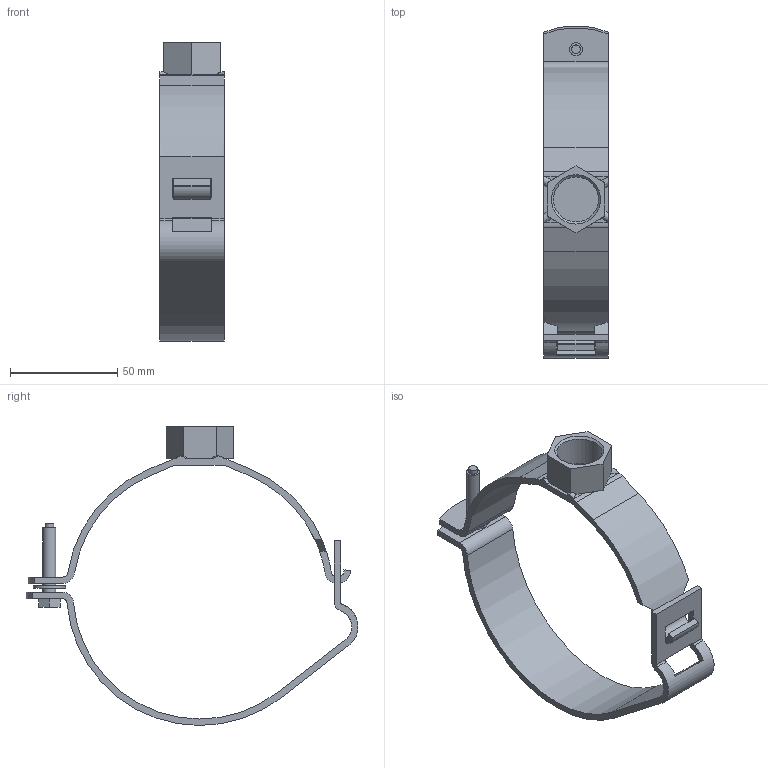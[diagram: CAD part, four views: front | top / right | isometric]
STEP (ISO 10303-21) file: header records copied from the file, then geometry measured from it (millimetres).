
FILE_DESCRIPTION(/* description */ (''),/* implementation_level */ '2;1');
FILE_NAME(/* name */ 'H:\Geberit-Teile\Export\367.841.00.2\stp\367841.stp',/* time_stamp */ '2016-03-14T12:19:00+01:00',/* author */ ('seihe2'),/* organization */ (''),/* preprocessor_version */ 'ST-DEVELOPER v15.2',/* originating_system */ 'Autodesk Inventor 2014',/* authorisation */ '');
FILE_SCHEMA (('AUTOMOTIVE_DESIGN { 1 0 10303 214 3 1 1 }'));
Length unit declared in the file: millimetre
Products named in the file (1): 367841
Bounding box: 30 x 154.55 x 139.2 mm (x, y, z)
Volume: 43847.7 mm3; surface area: 32433.3 mm2
Topology: 1 solids, 1 shells, 103 faces, 288 edges, 190 vertices
Faces by surface type: plane 65, cylinder 33, bspline 4, cone 1
Full cylindrical faces by diameter (mm): 4 x1, 6 x3, 15 x1, 20.955 x1
Entity records: 3437 total; most frequent: CARTESIAN_POINT 607, DIRECTION 572, ORIENTED_EDGE 558, EDGE_CURVE 279, AXIS2_PLACEMENT_3D 193, VERTEX_POINT 188, LINE 186, VECTOR 186
